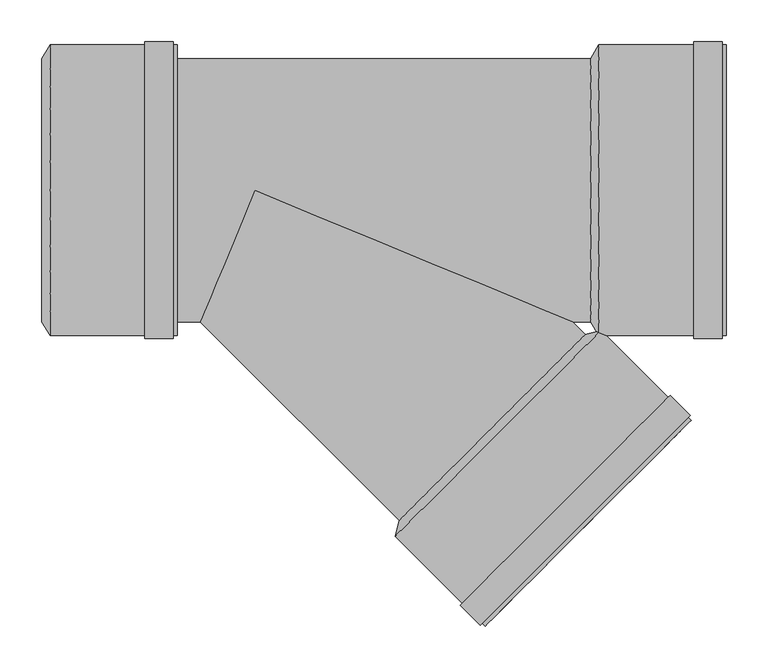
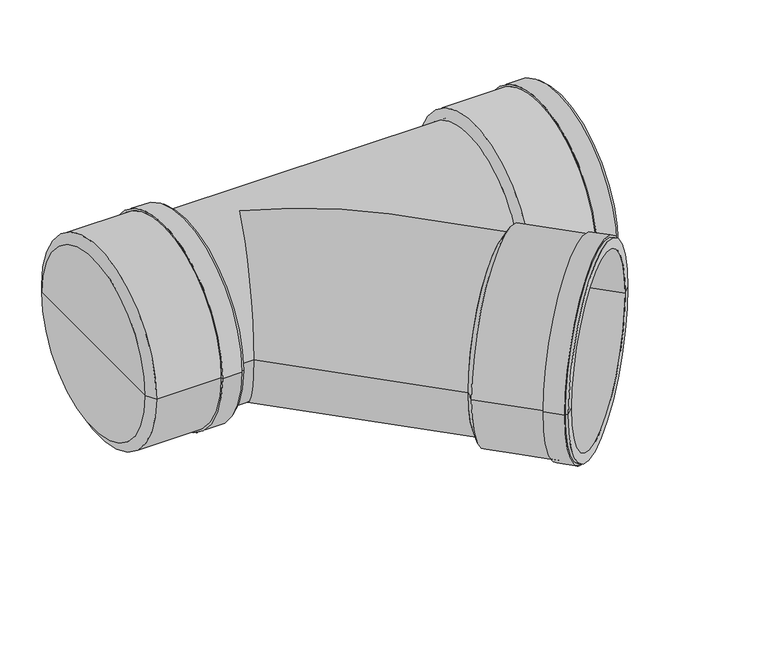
"""IFC4 building model written with IfcOpenShell, lengths in millimetres: pipe fitting geometry, pf_KGEA : pf_KGEA."""

from ifc_helpers import new_model, si_unit, frame, origin, place, context, project, spatial, polyline, circle_curve, ellipse_curve, source, transform, mapped, element, save
from ifc_brep_helpers import plane_surface, cylinder_surface, revolved_surface, advanced_brep


def pipe_fitting_bcc23936(model_context):
    return source(origin(), model_context, "Body", "AdvancedBrep", [
        advanced_brep(
        [(172.4633439, -395.20198, 0.0), (395.20198, -172.4633439, 0.0), (413.9403097, -167.7257285, 0.0), (167.7257285, -413.9403097, 0.0), (283.832662, -283.832662, 0.0), (275.2766699, -521.4912511, 0.0), (521.4912511, -275.2766699, 0.0), (509.7532786, -287.0146425, 0.0), (287.0146425, -509.7532786, 0.0), (271.8825574, -518.0971386, 0.0), (518.0971386, -271.8825574, 0.0), (269.4783943, -520.5013016, 0.0), (520.5013016, -269.4783943, 0.0), (245.5074744, -496.5303817, 0.0), (496.5303817, -245.5074744, 0.0), (247.9116375, -494.1262187, 0.0), (494.1262187, -247.9116375, 0.0), (179.4637011, -402.2023371, 0.0), (402.2023371, -179.4637011, 0.0), (290.8330191, -290.8330191, 0.0)],
        [
            (0, 1, circle_curve(frame((283.832662, -283.832662, 0.0), z_axis=(0.7071067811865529, -0.7071067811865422, 0.0), x_axis=(0.7071067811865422, 0.7071067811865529, 0.0)), 157.5)),
            (1, 2),
            (2, 3, circle_curve(frame((290.8330191, -290.8330191, 0.0), z_axis=(-0.7071067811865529, 0.7071067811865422, 0.0), x_axis=(0.7071067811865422, 0.7071067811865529, 0.0)), 174.1)),
            (3, 0),
            (1, 0, circle_curve(frame((283.832662, -283.832662, 0.0), z_axis=(0.7071067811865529, -0.7071067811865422, 0.0), x_axis=(0.7071067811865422, 0.7071067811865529, 0.0)), 157.5)),
            (3, 2, circle_curve(frame((290.8330191, -290.8330191, 0.0), z_axis=(-0.7071067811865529, 0.7071067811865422, 0.0), x_axis=(0.7071067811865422, 0.7071067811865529, 0.0)), 174.1)),
            (4, 1),
            (0, 4),
            (5, 6, circle_curve(frame((398.3839605, -398.3839605, 0.0), z_axis=(0.7071067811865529, -0.7071067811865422, 0.0), x_axis=(0.7071067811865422, 0.7071067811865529, 0.0)), 174.1)),
            (6, 7),
            (7, 8, circle_curve(frame((398.3839605, -398.3839605, 0.0), z_axis=(-0.7071067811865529, 0.7071067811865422, 0.0), x_axis=(0.7071067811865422, 0.7071067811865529, 0.0)), 157.5)),
            (8, 5),
            (6, 5, circle_curve(frame((398.3839605, -398.3839605, 0.0), z_axis=(0.7071067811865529, -0.7071067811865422, 0.0), x_axis=(0.7071067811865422, 0.7071067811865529, 0.0)), 174.1)),
            (8, 7, circle_curve(frame((398.3839605, -398.3839605, 0.0), z_axis=(-0.7071067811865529, 0.7071067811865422, 0.0), x_axis=(0.7071067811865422, 0.7071067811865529, 0.0)), 157.5)),
            (9, 10, circle_curve(frame((394.989848, -394.989848, 0.0), z_axis=(0.7071067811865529, -0.7071067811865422, 0.0), x_axis=(0.7071067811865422, 0.7071067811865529, 0.0)), 174.1)),
            (10, 6),
            (5, 9),
            (10, 9, circle_curve(frame((394.989848, -394.989848, 0.0), z_axis=(0.7071067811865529, -0.7071067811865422, 0.0), x_axis=(0.7071067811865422, 0.7071067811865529, 0.0)), 174.1)),
            (11, 12, circle_curve(frame((394.989848, -394.989848, 0.0), z_axis=(0.7071067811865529, -0.7071067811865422, 0.0), x_axis=(0.7071067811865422, 0.7071067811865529, 0.0)), 177.5)),
            (12, 10),
            (9, 11),
            (12, 11, circle_curve(frame((394.989848, -394.989848, 0.0), z_axis=(0.7071067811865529, -0.7071067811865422, 0.0), x_axis=(0.7071067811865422, 0.7071067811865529, 0.0)), 177.5)),
            (13, 14, circle_curve(frame((371.0189281, -371.0189281, 0.0), z_axis=(0.7071067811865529, -0.7071067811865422, 0.0), x_axis=(0.7071067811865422, 0.7071067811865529, 0.0)), 177.5)),
            (14, 12),
            (11, 13),
            (14, 13, circle_curve(frame((371.0189281, -371.0189281, 0.0), z_axis=(0.7071067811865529, -0.7071067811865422, 0.0), x_axis=(0.7071067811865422, 0.7071067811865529, 0.0)), 177.5)),
            (15, 16, circle_curve(frame((371.0189281, -371.0189281, 0.0), z_axis=(0.7071067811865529, -0.7071067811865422, 0.0), x_axis=(0.7071067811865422, 0.7071067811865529, 0.0)), 174.1)),
            (16, 14),
            (13, 15),
            (16, 15, circle_curve(frame((371.0189281, -371.0189281, 0.0), z_axis=(0.7071067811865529, -0.7071067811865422, 0.0), x_axis=(0.7071067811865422, 0.7071067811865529, 0.0)), 174.1)),
            (2, 16),
            (15, 3),
            (17, 18, circle_curve(frame((290.8330191, -290.8330191, 0.0), z_axis=(0.7071067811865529, -0.7071067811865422, 0.0), x_axis=(0.7071067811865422, 0.7071067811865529, 0.0)), 157.5)),
            (18, 19),
            (19, 17),
            (18, 17, circle_curve(frame((290.8330191, -290.8330191, 0.0), z_axis=(0.7071067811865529, -0.7071067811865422, 0.0), x_axis=(0.7071067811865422, 0.7071067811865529, 0.0)), 157.5)),
            (7, 18),
            (17, 8),
        ],
        [
            revolved_surface(polyline([(413.9403097, -167.7257285, 0.0), (395.20198, -172.4633439, 0.0)]), (283.832662, -283.832662, 0.0), (-0.7071067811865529, 0.7071067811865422, 0.0)),
            plane_surface(frame((283.832662, -283.832662, 0.0), z_axis=(-0.7071067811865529, 0.7071067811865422, 0.0), x_axis=(0.7071067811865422, 0.7071067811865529, 0.0))),
            plane_surface(frame((398.3839605, -398.3839605, 0.0), z_axis=(0.7071067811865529, -0.7071067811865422, 0.0), x_axis=(0.7071067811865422, 0.7071067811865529, 0.0))),
            cylinder_surface(frame((283.832662, -283.832662, 0.0), z_axis=(-0.7071067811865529, 0.7071067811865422, 0.0), x_axis=(0.7071067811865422, 0.7071067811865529, 0.0)), 174.1),
            plane_surface(frame((394.989848, -394.989848, 0.0), z_axis=(0.7071067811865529, -0.7071067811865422, 0.0), x_axis=(0.7071067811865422, 0.7071067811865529, 0.0))),
            cylinder_surface(frame((283.832662, -283.832662, 0.0), z_axis=(-0.7071067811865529, 0.7071067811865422, 0.0), x_axis=(0.7071067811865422, 0.7071067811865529, 0.0)), 177.5),
            plane_surface(frame((371.0189281, -371.0189281, 0.0), z_axis=(-0.7071067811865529, 0.7071067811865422, 0.0), x_axis=(0.7071067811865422, 0.7071067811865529, 0.0))),
            plane_surface(frame((290.8330191, -290.8330191, 0.0), z_axis=(0.7071067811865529, -0.7071067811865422, 0.0), x_axis=(0.7071067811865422, 0.7071067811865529, 0.0))),
            revolved_surface(polyline([(402.2023371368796, -179.46370106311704, 0.0), (509.75327858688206, -287.0146425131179, 0.0)]), (283.832662, -283.832662, 0.0), (-0.7071067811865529, 0.7071067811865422, 0.0)),
        ],
        [
            (0, [[1, 2, 3, 4]]),
            (0, [[5, -4, 6, -2]]),
            (1, [[7, -1, 8]]),
            (1, [[-8, -5, -7]]),
            (2, [[9, 10, 11, 12]]),
            (2, [[13, -12, 14, -10]]),
            (3, [[15, 16, -9, 17]]),
            (3, [[18, -17, -13, -16]]),
            (4, [[19, 20, -15, 21]]),
            (4, [[22, -21, -18, -20]]),
            (5, [[23, 24, -19, 25]]),
            (5, [[26, -25, -22, -24]]),
            (6, [[27, 28, -23, 29]]),
            (6, [[30, -29, -26, -28]]),
            (3, [[-3, 31, -27, 32]]),
            (3, [[-6, -32, -30, -31]]),
            (7, [[33, 34, 35]]),
            (7, [[36, -35, -34]]),
            (8, [[-11, 37, -33, 38]]),
            (8, [[-14, -38, -36, -37]]),
        ],
    ),
        advanced_brep(
        [(401.4, -157.5, 0.0), (401.4, 157.5, 0.0), (411.3, 174.1, 0.0), (411.3, -174.1, 0.0), (401.4, 0.0, 0.0), (563.4, -174.1, 0.0), (563.4, 174.1, 0.0), (563.4, 157.5, 0.0), (563.4, -157.5, 0.0), (558.6, -174.1, 0.0), (558.6, 174.1, 0.0), (558.6, -177.5, 0.0), (558.6, 177.5, 0.0), (524.7, -177.5, 0.0), (524.7, 177.5, 0.0), (524.7, -174.1, 0.0), (524.7, 174.1, 0.0), (411.3, -157.5, 0.0), (411.3, 157.5, 0.0), (411.3, 0.0, 0.0)],
        [
            (0, 1, circle_curve(frame((401.4, 0.0, 0.0), z_axis=(1.0, 0.0, 0.0), x_axis=(0.0, 1.0, 0.0)), 157.5)),
            (1, 2),
            (2, 3, circle_curve(frame((411.3, 0.0, 0.0), z_axis=(-1.0, 0.0, 0.0), x_axis=(0.0, 1.0, 0.0)), 174.1)),
            (3, 0),
            (1, 0, circle_curve(frame((401.4, 0.0, 0.0), z_axis=(1.0, 0.0, 0.0), x_axis=(0.0, 1.0, 0.0)), 157.5)),
            (3, 2, circle_curve(frame((411.3, 0.0, 0.0), z_axis=(-1.0, 0.0, 0.0), x_axis=(0.0, 1.0, 0.0)), 174.1)),
            (4, 1),
            (0, 4),
            (5, 6, circle_curve(frame((563.4, 0.0, 0.0), z_axis=(1.0, 0.0, 0.0), x_axis=(0.0, 1.0, 0.0)), 174.1)),
            (6, 7),
            (7, 8, circle_curve(frame((563.4, 0.0, 0.0), z_axis=(-1.0, 0.0, 0.0), x_axis=(0.0, 1.0, 0.0)), 157.5)),
            (8, 5),
            (6, 5, circle_curve(frame((563.4, 0.0, 0.0), z_axis=(1.0, 0.0, 0.0), x_axis=(0.0, 1.0, 0.0)), 174.1)),
            (8, 7, circle_curve(frame((563.4, 0.0, 0.0), z_axis=(-1.0, 0.0, 0.0), x_axis=(0.0, 1.0, 0.0)), 157.5)),
            (9, 10, circle_curve(frame((558.6, 0.0, 0.0), z_axis=(1.0, 0.0, 0.0), x_axis=(0.0, 1.0, 0.0)), 174.1)),
            (10, 6),
            (5, 9),
            (10, 9, circle_curve(frame((558.6, 0.0, 0.0), z_axis=(1.0, 0.0, 0.0), x_axis=(0.0, 1.0, 0.0)), 174.1)),
            (11, 12, circle_curve(frame((558.6, 0.0, 0.0), z_axis=(1.0, 0.0, 0.0), x_axis=(0.0, 1.0, 0.0)), 177.5)),
            (12, 10),
            (9, 11),
            (12, 11, circle_curve(frame((558.6, 0.0, 0.0), z_axis=(1.0, 0.0, 0.0), x_axis=(0.0, 1.0, 0.0)), 177.5)),
            (13, 14, circle_curve(frame((524.7, 0.0, 0.0), z_axis=(1.0, 0.0, 0.0), x_axis=(0.0, 1.0, 0.0)), 177.5)),
            (14, 12),
            (11, 13),
            (14, 13, circle_curve(frame((524.7, 0.0, 0.0), z_axis=(1.0, 0.0, 0.0), x_axis=(0.0, 1.0, 0.0)), 177.5)),
            (15, 16, circle_curve(frame((524.7, 0.0, 0.0), z_axis=(1.0, 0.0, 0.0), x_axis=(0.0, 1.0, 0.0)), 174.1)),
            (16, 14),
            (13, 15),
            (16, 15, circle_curve(frame((524.7, 0.0, 0.0), z_axis=(1.0, 0.0, 0.0), x_axis=(0.0, 1.0, 0.0)), 174.1)),
            (2, 16),
            (15, 3),
            (17, 18, circle_curve(frame((411.3, 0.0, 0.0), z_axis=(1.0, 0.0, 0.0), x_axis=(0.0, 1.0, 0.0)), 157.5)),
            (18, 19),
            (19, 17),
            (18, 17, circle_curve(frame((411.3, 0.0, 0.0), z_axis=(1.0, 0.0, 0.0), x_axis=(0.0, 1.0, 0.0)), 157.5)),
            (7, 18),
            (17, 8),
        ],
        [
            revolved_surface(polyline([(411.3, 174.1, 0.0), (401.4, 157.5, 0.0)]), (401.4, 0.0, 0.0), (-1.0, 0.0, 0.0)),
            plane_surface(frame((401.4, 0.0, 0.0), z_axis=(-1.0, 0.0, 0.0), x_axis=(0.0, 1.0, 0.0))),
            plane_surface(frame((563.4, 0.0, 0.0), z_axis=(1.0, 0.0, 0.0), x_axis=(0.0, 1.0, 0.0))),
            cylinder_surface(frame((401.4, 0.0, 0.0), z_axis=(-1.0, 0.0, 0.0), x_axis=(0.0, 1.0, 0.0)), 174.1),
            plane_surface(frame((558.6, 0.0, 0.0), z_axis=(1.0, 0.0, 0.0), x_axis=(0.0, 1.0, 0.0))),
            cylinder_surface(frame((401.4, 0.0, 0.0), z_axis=(-1.0, 0.0, 0.0), x_axis=(0.0, 1.0, 0.0)), 177.5),
            plane_surface(frame((524.7, 0.0, 0.0), z_axis=(-1.0, 0.0, 0.0), x_axis=(0.0, 1.0, 0.0))),
            plane_surface(frame((411.3, 0.0, 0.0), z_axis=(1.0, 0.0, 0.0), x_axis=(0.0, 1.0, 0.0))),
            revolved_surface(polyline([(411.3, 157.5, 0.0), (563.4, 157.5, 0.0)]), (401.4, 0.0, 0.0), (-1.0, 0.0, 0.0)),
        ],
        [
            (0, [[1, 2, 3, 4]]),
            (0, [[5, -4, 6, -2]]),
            (1, [[7, -1, 8]]),
            (1, [[-8, -5, -7]]),
            (2, [[9, 10, 11, 12]]),
            (2, [[13, -12, 14, -10]]),
            (3, [[15, 16, -9, 17]]),
            (3, [[18, -17, -13, -16]]),
            (4, [[19, 20, -15, 21]]),
            (4, [[22, -21, -18, -20]]),
            (5, [[23, 24, -19, 25]]),
            (5, [[26, -25, -22, -24]]),
            (6, [[27, 28, -23, 29]]),
            (6, [[30, -29, -26, -28]]),
            (3, [[-3, 31, -27, 32]]),
            (3, [[-6, -32, -30, -31]]),
            (7, [[33, 34, 35]]),
            (7, [[36, -35, -34]]),
            (8, [[-11, 37, -33, 38]]),
            (8, [[-14, -38, -36, -37]]),
        ],
    ),
        advanced_brep(
        [(-254.7, -157.5, 0.0), (-254.7, 157.5, 0.0), (-244.8, 174.1, 0.0), (-244.8, -174.1, 0.0), (-254.7, 0.0, 0.0), (-92.7, -174.1, 0.0), (-92.7, 174.1, 0.0), (-92.7, 157.5, 0.0), (-92.7, -157.5, 0.0), (-97.5, -174.1, 0.0), (-97.5, 174.1, 0.0), (-97.5, -177.5, 0.0), (-97.5, 177.5, 0.0), (-131.4, -177.5, 0.0), (-131.4, 177.5, 0.0), (-131.4, -174.1, 0.0), (-131.4, 174.1, 0.0), (-244.8, -157.5, 0.0), (-244.8, 157.5, 0.0), (-244.8, 0.0, 0.0)],
        [
            (0, 1, circle_curve(frame((-254.7, 0.0, 0.0), z_axis=(1.0, 0.0, 0.0), x_axis=(0.0, 1.0, 0.0)), 157.5)),
            (1, 2),
            (2, 3, circle_curve(frame((-244.8, 0.0, 0.0), z_axis=(-1.0, 0.0, 0.0), x_axis=(0.0, 1.0, 0.0)), 174.1)),
            (3, 0),
            (1, 0, circle_curve(frame((-254.7, 0.0, 0.0), z_axis=(1.0, 0.0, 0.0), x_axis=(0.0, 1.0, 0.0)), 157.5)),
            (3, 2, circle_curve(frame((-244.8, 0.0, 0.0), z_axis=(-1.0, 0.0, 0.0), x_axis=(0.0, 1.0, 0.0)), 174.1)),
            (4, 1),
            (0, 4),
            (5, 6, circle_curve(frame((-92.7, 0.0, 0.0), z_axis=(1.0, 0.0, 0.0), x_axis=(0.0, 1.0, 0.0)), 174.1)),
            (6, 7),
            (7, 8, circle_curve(frame((-92.7, 0.0, 0.0), z_axis=(-1.0, 0.0, 0.0), x_axis=(0.0, 1.0, 0.0)), 157.5)),
            (8, 5),
            (6, 5, circle_curve(frame((-92.7, 0.0, 0.0), z_axis=(1.0, 0.0, 0.0), x_axis=(0.0, 1.0, 0.0)), 174.1)),
            (8, 7, circle_curve(frame((-92.7, 0.0, 0.0), z_axis=(-1.0, 0.0, 0.0), x_axis=(0.0, 1.0, 0.0)), 157.5)),
            (9, 10, circle_curve(frame((-97.5, 0.0, 0.0), z_axis=(1.0, 0.0, 0.0), x_axis=(0.0, 1.0, 0.0)), 174.1)),
            (10, 6),
            (5, 9),
            (10, 9, circle_curve(frame((-97.5, 0.0, 0.0), z_axis=(1.0, 0.0, 0.0), x_axis=(0.0, 1.0, 0.0)), 174.1)),
            (11, 12, circle_curve(frame((-97.5, 0.0, 0.0), z_axis=(1.0, 0.0, 0.0), x_axis=(0.0, 1.0, 0.0)), 177.5)),
            (12, 10),
            (9, 11),
            (12, 11, circle_curve(frame((-97.5, 0.0, 0.0), z_axis=(1.0, 0.0, 0.0), x_axis=(0.0, 1.0, 0.0)), 177.5)),
            (13, 14, circle_curve(frame((-131.4, 0.0, 0.0), z_axis=(1.0, 0.0, 0.0), x_axis=(0.0, 1.0, 0.0)), 177.5)),
            (14, 12),
            (11, 13),
            (14, 13, circle_curve(frame((-131.4, 0.0, 0.0), z_axis=(1.0, 0.0, 0.0), x_axis=(0.0, 1.0, 0.0)), 177.5)),
            (15, 16, circle_curve(frame((-131.4, 0.0, 0.0), z_axis=(1.0, 0.0, 0.0), x_axis=(0.0, 1.0, 0.0)), 174.1)),
            (16, 14),
            (13, 15),
            (16, 15, circle_curve(frame((-131.4, 0.0, 0.0), z_axis=(1.0, 0.0, 0.0), x_axis=(0.0, 1.0, 0.0)), 174.1)),
            (2, 16),
            (15, 3),
            (17, 18, circle_curve(frame((-244.8, 0.0, 0.0), z_axis=(1.0, 0.0, 0.0), x_axis=(0.0, 1.0, 0.0)), 157.5)),
            (18, 19),
            (19, 17),
            (18, 17, circle_curve(frame((-244.8, 0.0, 0.0), z_axis=(1.0, 0.0, 0.0), x_axis=(0.0, 1.0, 0.0)), 157.5)),
            (7, 18),
            (17, 8),
        ],
        [
            revolved_surface(polyline([(-244.8, 174.1, 0.0), (-254.7, 157.5, 0.0)]), (-254.7, 0.0, 0.0), (-1.0, 0.0, 0.0)),
            plane_surface(frame((-254.7, 0.0, 0.0), z_axis=(-1.0, 0.0, 0.0), x_axis=(0.0, 1.0, 0.0))),
            plane_surface(frame((-92.7, 0.0, 0.0), z_axis=(1.0, 0.0, 0.0), x_axis=(0.0, 1.0, 0.0))),
            cylinder_surface(frame((-254.7, 0.0, 0.0), z_axis=(-1.0, 0.0, 0.0), x_axis=(0.0, 1.0, 0.0)), 174.1),
            plane_surface(frame((-97.5, 0.0, 0.0), z_axis=(1.0, 0.0, 0.0), x_axis=(0.0, 1.0, 0.0))),
            cylinder_surface(frame((-254.7, 0.0, 0.0), z_axis=(-1.0, 0.0, 0.0), x_axis=(0.0, 1.0, 0.0)), 177.5),
            plane_surface(frame((-131.4, 0.0, 0.0), z_axis=(-1.0, 0.0, 0.0), x_axis=(0.0, 1.0, 0.0))),
            plane_surface(frame((-244.8, 0.0, 0.0), z_axis=(1.0, 0.0, 0.0), x_axis=(0.0, 1.0, 0.0))),
            revolved_surface(polyline([(-244.8, 157.5, 0.0), (-92.69999999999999, 157.5, 0.0)]), (-254.7, 0.0, 0.0), (-1.0, 0.0, 0.0)),
        ],
        [
            (0, [[1, 2, 3, 4]]),
            (0, [[5, -4, 6, -2]]),
            (1, [[7, -1, 8]]),
            (1, [[-8, -5, -7]]),
            (2, [[9, 10, 11, 12]]),
            (2, [[13, -12, 14, -10]]),
            (3, [[15, 16, -9, 17]]),
            (3, [[18, -17, -13, -16]]),
            (4, [[19, 20, -15, 21]]),
            (4, [[22, -21, -18, -20]]),
            (5, [[23, 24, -19, 25]]),
            (5, [[26, -25, -22, -24]]),
            (6, [[27, 28, -23, 29]]),
            (6, [[30, -29, -26, -28]]),
            (3, [[-3, 31, -27, 32]]),
            (3, [[-6, -32, -30, -31]]),
            (7, [[33, 34, 35]]),
            (7, [[36, -35, -34]]),
            (8, [[-11, 37, -33, 38]]),
            (8, [[-14, -38, -36, -37]]),
        ],
    ),
        advanced_brep(
        [(-244.8, -157.5, 0.0), (-244.8, 157.5, 0.0), (401.4, -157.5, 0.0), (401.4, 157.5, 0.0), (-65.2386361, -157.5, 0.0), (0.0, 0.0, 157.5), (380.2386361, -157.5, 0.0), (0.0, 0.0, -157.5), (172.4633439, -395.20198, 0.0), (395.20198, -172.4633439, 0.0)],
        [
            (0, 1, circle_curve(frame((-244.8, 0.0, 0.0), z_axis=(-1.0, 0.0, 0.0), x_axis=(0.0, 1.0, 0.0)), 157.5)),
            (1, 0, circle_curve(frame((-244.8, 0.0, 0.0), z_axis=(-1.0, 0.0, 0.0), x_axis=(0.0, 1.0, 0.0)), 157.5)),
            (2, 3, circle_curve(frame((401.4, 0.0, 0.0), z_axis=(1.0, 0.0, 0.0), x_axis=(0.0, 1.0, 0.0)), 157.5)),
            (3, 2, circle_curve(frame((401.4, 0.0, 0.0), z_axis=(1.0, 0.0, 0.0), x_axis=(0.0, 1.0, 0.0)), 157.5)),
            (0, 4),
            (4, 5, ellipse_curve(frame((0.0, 0.0, 0.0), z_axis=(-0.923879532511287, 0.38268343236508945, 0.0), x_axis=(-0.38268343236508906, -0.9238795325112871, 0.0)), 170.4767715, 157.5)),
            (5, 6, ellipse_curve(frame((0.0, 0.0, 0.0), z_axis=(0.3826834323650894, 0.9238795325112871, 0.0), x_axis=(-0.923879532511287, 0.38268343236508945, 0.0)), 411.5673339, 157.5)),
            (6, 2),
            (3, 1),
            (6, 7, ellipse_curve(frame((0.0, 0.0, 0.0), z_axis=(0.3826834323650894, 0.9238795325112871, 0.0), x_axis=(-0.923879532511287, 0.38268343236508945, 0.0)), 411.5673339, 157.5)),
            (7, 4, ellipse_curve(frame((0.0, 0.0, 0.0), z_axis=(-0.923879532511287, 0.38268343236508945, 0.0), x_axis=(-0.38268343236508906, -0.9238795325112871, 0.0)), 170.4767715, 157.5)),
            (8, 9, circle_curve(frame((283.832662, -283.832662, 0.0), z_axis=(0.7071067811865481, -0.707106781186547, 0.0), x_axis=(0.707106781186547, 0.7071067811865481, 0.0)), 157.5)),
            (9, 8, circle_curve(frame((283.832662, -283.832662, 0.0), z_axis=(0.7071067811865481, -0.707106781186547, 0.0), x_axis=(0.707106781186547, 0.7071067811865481, 0.0)), 157.5)),
            (9, 6),
            (4, 8),
        ],
        [
            plane_surface(frame((-244.8, 0.0, 0.0), z_axis=(-1.0, 0.0, 0.0), x_axis=(0.0, 0.0, 1.0))),
            plane_surface(frame((401.4, 0.0, 0.0), z_axis=(1.0, 0.0, 0.0), x_axis=(0.0, 0.0, 1.0))),
            cylinder_surface(frame((-244.8, 0.0, 0.0), z_axis=(-1.0, 0.0, 0.0), x_axis=(0.0, 1.0, 0.0)), 157.5),
            plane_surface(frame((283.832662, -283.832662, 0.0), z_axis=(0.7071067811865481, -0.707106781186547, 0.0), x_axis=(0.0, 0.0, 1.0))),
            cylinder_surface(frame((0.0, 0.0, 0.0), z_axis=(-0.7071067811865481, 0.707106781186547, 0.0), x_axis=(0.707106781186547, 0.7071067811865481, 0.0)), 157.5),
        ],
        [
            (0, [[1, 2]]),
            (1, [[3, 4]]),
            (2, [[-1, 5, 6, 7, 8, -4, 9]]),
            (2, [[-2, -9, -3, -8, 10, 11, -5]]),
            (3, [[12, 13]]),
            (4, [[-13, 14, -7, -6, 15]]),
            (4, [[-12, -15, -11, -10, -14]]),
        ],
    ),
    ])


if __name__ == "__main__":
    model = new_model("IFC4")
    model_context = context("Model", 3, world=origin())
    ifc_project = project(units=[si_unit("LENGTHUNIT", "METRE", prefix="MILLI")], contexts=[model_context])
    site = spatial("IfcSite", under=ifc_project)
    building = spatial("IfcBuilding", under=site)
    placement = place(None, origin())
    pipe_fitting_shape = pipe_fitting_bcc23936(model_context)
    element("IfcPipeFitting", 1, ObjectType="pf_KGEA : pf_KGEA", at=placement, inside=building, context=model_context, shape_type="MappedRepresentation", body=[
        mapped(pipe_fitting_shape, transform((0.0, 0.0, 0.0), x_axis=(1.0, 0.0, 0.0), y_axis=(0.0, 1.0, 0.0), z_axis=(0.0, 0.0, 1.0))),
    ])
    save(model, "model.ifc")
